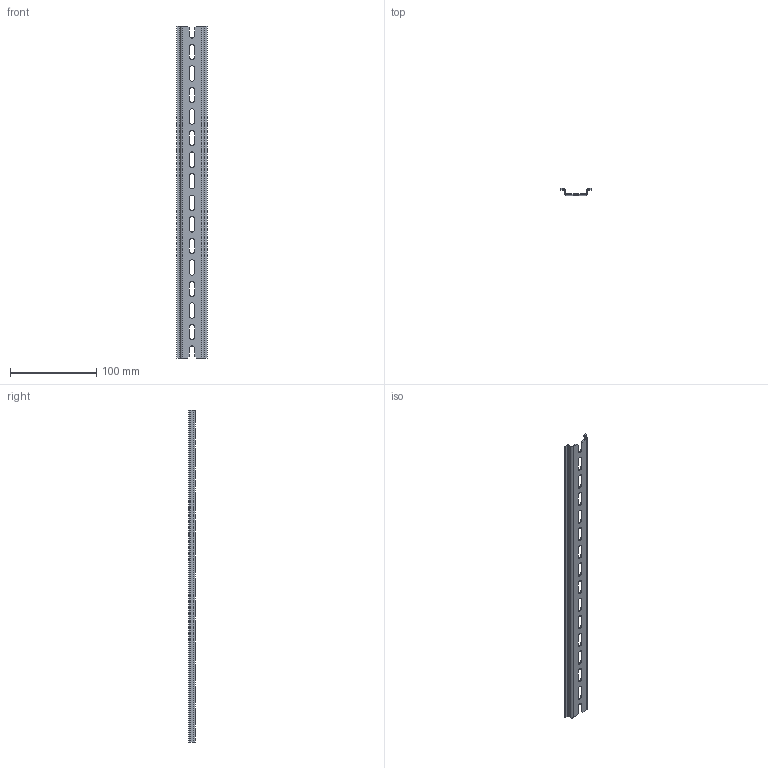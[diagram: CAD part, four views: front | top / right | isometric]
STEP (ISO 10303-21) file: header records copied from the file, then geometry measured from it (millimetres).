
FILE_DESCRIPTION (( 'STEP AP214' ), '1' );
FILE_NAME ('DR 07.385 DIN-ðåéêà.STEP', '2022-09-12T11:20:01', ( '' ), ( '' ), 'SwSTEP 2.0', 'SolidWorks 2018', '' );
FILE_SCHEMA (( 'AUTOMOTIVE_DESIGN' ));
Length unit declared in the file: millimetre
Products named in the file (1): DR 07.385 DIN-ðåéêà
Bounding box: 34.8 x 7.5 x 385 mm (x, y, z)
Volume: 18584.6 mm3; surface area: 32779.9 mm2
Topology: 1 solids, 1 shells, 121 faces, 325 edges, 206 vertices
Faces by surface type: plane 68, cylinder 53
Entity records: 3859 total; most frequent: DIRECTION 675, CARTESIAN_POINT 653, ORIENTED_EDGE 650, EDGE_CURVE 325, AXIS2_PLACEMENT_3D 228, VECTOR 219, LINE 219, VERTEX_POINT 206
